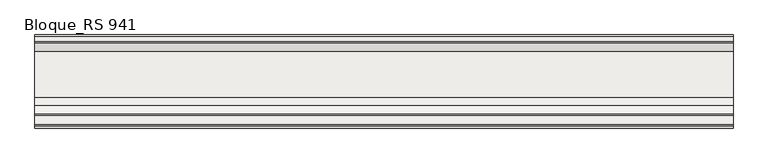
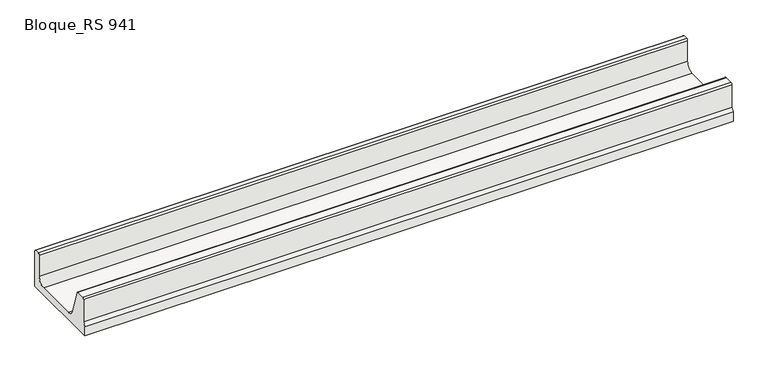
"""IFC4 building model written with IfcOpenShell, lengths in millimetres: slab geometry, ROSA GRES_RS 941 : Bloque_RS 941."""

from ifc_helpers import new_model, si_unit, point, frame, frame_2d, origin, place, context, project, spatial, polyline, circle_curve, trimmed, segment, composite_curve, outline, extrude, source, transform, mapped, element, save


def bloque_rs_941_0a784b4b(model_context):
    return source(origin(), model_context, "Body", "SweptSolid", [
        extrude(outline(composite_curve([segment(trimmed(circle_curve(frame_2d((290.8048832, 121.0098178)), 4.9901918), [point((290.7950654, 126.0))], [point((295.7950654, 121.0))], False, "CARTESIAN"), True, "CONTINUOUS"), segment(polyline([(295.7950654, 121.0), (295.7950654, 0.0), (15.7946269, 0.0), (15.7946269, 32.0012714), (22.7946272, 44.0), (22.7946272, 121.0)]), True, "CONTINUOUS"), segment(trimmed(circle_curve(frame_2d((27.7946272, 121.0)), 5.0), [point((22.7946272, 121.0))], [point((27.7946272, 126.0))], False, "CARTESIAN"), True, "CONTINUOUS"), segment(polyline([(27.7946272, 126.0), (54.1223252, 126.0)]), True, "CONTINUOUS"), segment(trimmed(circle_curve(frame_2d((54.1351224, 121.0174239)), 4.9825925), [point((54.1223252, 126.0))], [point((58.8933079, 122.4959025))], False, "CARTESIAN"), True, "CONTINUOUS"), segment(polyline([(58.8933079, 122.4959025), (83.9689438, 42.5204875)]), True, "CONTINUOUS"), segment(trimmed(circle_curve(frame_2d((107.6378199, 49.7467022)), 24.7474015), [point((83.9689438, 42.5204875))], [point((107.8238571, 25.0))], True, "CARTESIAN"), True, "CONTINUOUS"), segment(polyline([(107.8238571, 25.0), (246.7450654, 25.0)]), True, "CONTINUOUS"), segment(trimmed(circle_curve(frame_2d((246.8549987, 49.9398968)), 24.9401391), [point((246.7450654, 25.0))], [point((271.7950654, 50.0))], True, "CARTESIAN"), True, "CONTINUOUS"), segment(polyline([(271.7950654, 50.0), (271.7950654, 121.221769)]), True, "CONTINUOUS"), segment(trimmed(circle_curve(frame_2d((276.7873115, 121.0029619)), 4.9970389), [point((271.7950654, 121.221769))], [point((276.7901448, 126.0))], False, "CARTESIAN"), True, "CONTINUOUS"), segment(polyline([(276.7901448, 126.0), (290.7950654, 126.0)]), True, "CONTINUOUS")], self_intersect=False)), frame((0.0, 0.0, 0.0), z_axis=(1.0, 0.0, 0.0), x_axis=(0.0, 1.0, 0.0)), (0.0, 0.0, 1.0), 2100.0),
    ])


if __name__ == "__main__":
    model = new_model("IFC4")
    model_context = context("Model", 3, world=origin())
    ifc_project = project(units=[si_unit("LENGTHUNIT", "METRE", prefix="MILLI")], contexts=[model_context])
    site = spatial("IfcSite", under=ifc_project)
    building = spatial("IfcBuilding", under=site)
    placement = place(None, origin())
    bloque_rs_941_shape = bloque_rs_941_0a784b4b(model_context)
    element("IfcSlab", 1, ObjectType="ROSA GRES_RS 941 : Bloque_RS 941", at=placement, inside=building, context=model_context, shape_type="MappedRepresentation", body=[
        mapped(bloque_rs_941_shape, transform((0.0, 0.0, 0.0), x_axis=(1.0, 0.0, 0.0), y_axis=(0.0, 1.0, 0.0), z_axis=(0.0, 0.0, 1.0))),
    ])
    save(model, "model.ifc")
